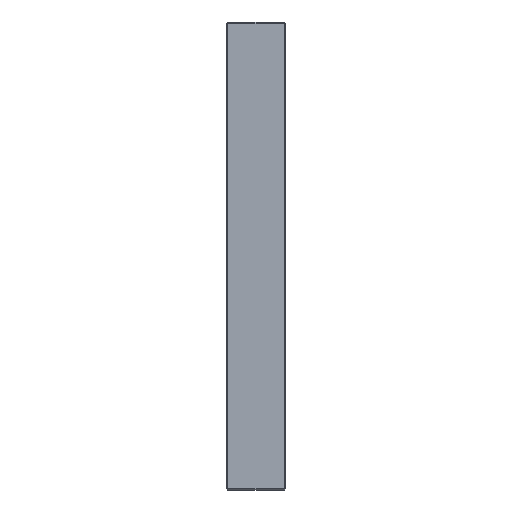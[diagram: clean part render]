
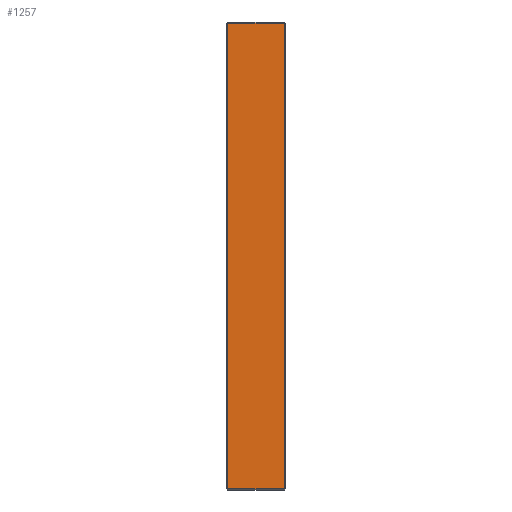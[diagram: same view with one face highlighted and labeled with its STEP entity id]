
A CAD part, left-side view. The second image highlights one B-rep face of the part: STEP entity #1257.
In plain terms, the highlighted planar face has unit normal (-1, 0, 0).
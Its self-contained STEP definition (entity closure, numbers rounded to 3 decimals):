
#23 = CARTESIAN_POINT ( 'NONE',  ( -148., 55., -222. ) ) ;
#68 = ORIENTED_EDGE ( 'NONE', *, *, #2691, .T. ) ;
#93 = ORIENTED_EDGE ( 'NONE', *, *, #1865, .T. ) ;
#134 = ORIENTED_EDGE ( 'NONE', *, *, #1186, .T. ) ;
#150 = VERTEX_POINT ( 'NONE', #23 ) ;
#201 = EDGE_CURVE ( 'NONE', #862, #476, #578, .T. ) ;
#257 = VERTEX_POINT ( 'NONE', #2395 ) ;
#334 = ORIENTED_EDGE ( 'NONE', *, *, #201, .T. ) ;
#476 = VERTEX_POINT ( 'NONE', #514 ) ;
#484 = LINE ( 'NONE', #1391, #555 ) ;
#514 = CARTESIAN_POINT ( 'NONE',  ( -148., 55., 222. ) ) ;
#555 = VECTOR ( 'NONE', #1629, 1000. ) ;
#578 = LINE ( 'NONE', #1031, #2232 ) ;
#862 = VERTEX_POINT ( 'NONE', #1975 ) ;
#929 = CARTESIAN_POINT ( 'NONE',  ( -148., 55., 223. ) ) ;
#934 = DIRECTION ( 'NONE',  ( 0., 0., -1. ) ) ;
#1031 = CARTESIAN_POINT ( 'NONE',  ( -148., 56., 222. ) ) ;
#1037 = VECTOR ( 'NONE', #2003, 1000. ) ;
#1186 = EDGE_CURVE ( 'NONE', #476, #150, #1727, .T. ) ;
#1257 = ADVANCED_FACE ( 'NONE', ( #2592 ), #2183, .F. ) ;
#1391 = CARTESIAN_POINT ( 'NONE',  ( -148., 56., -222. ) ) ;
#1537 = LINE ( 'NONE', #2144, #1037 ) ;
#1629 = DIRECTION ( 'NONE',  ( 0., -1., 0. ) ) ;
#1727 = LINE ( 'NONE', #929, #2054 ) ;
#1865 = EDGE_CURVE ( 'NONE', #150, #257, #484, .T. ) ;
#1975 = CARTESIAN_POINT ( 'NONE',  ( -148., 1., 222. ) ) ;
#2003 = DIRECTION ( 'NONE',  ( 0., 0., 1. ) ) ;
#2045 = CARTESIAN_POINT ( 'NONE',  ( -148., 56., 223. ) ) ;
#2054 = VECTOR ( 'NONE', #934, 1000. ) ;
#2062 = AXIS2_PLACEMENT_3D ( 'NONE', #2045, #2104, #2253 ) ;
#2104 = DIRECTION ( 'NONE',  ( 1., 0., 0. ) ) ;
#2144 = CARTESIAN_POINT ( 'NONE',  ( -148., 1., 223. ) ) ;
#2159 = DIRECTION ( 'NONE',  ( 0., 1., 0. ) ) ;
#2183 = PLANE ( 'NONE',  #2062 ) ;
#2232 = VECTOR ( 'NONE', #2159, 1000. ) ;
#2253 = DIRECTION ( 'NONE',  ( 0., 0., -1. ) ) ;
#2290 = EDGE_LOOP ( 'NONE', ( #334, #134, #93, #68 ) ) ;
#2395 = CARTESIAN_POINT ( 'NONE',  ( -148., 1., -222. ) ) ;
#2592 = FACE_OUTER_BOUND ( 'NONE', #2290, .T. ) ;
#2691 = EDGE_CURVE ( 'NONE', #257, #862, #1537, .T. ) ;
